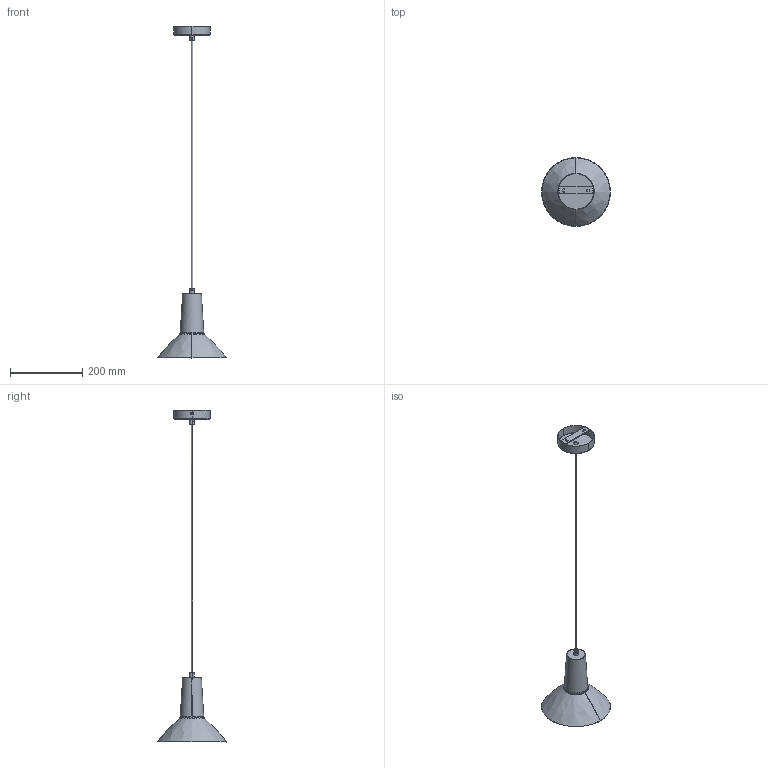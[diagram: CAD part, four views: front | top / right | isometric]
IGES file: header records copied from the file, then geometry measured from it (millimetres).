
Start section: SolidWorks IGES file using analytic representation for surfaces
Global section: file name: C:\Users\adrian\Desktop\Nueva Coleccion Septiembre 2026\HUDO\HUDO_C1366-1\HUDO_C1366_1.IGS; native system: SolidWorks 2023; preprocessor: SolidWorks 2023; author: adrian; date: 260616.170420; units: millimetre
Bounding box: 190.01 x 190.01 x 916.48 mm (x, y, z)
Surface area: 189761 mm2 (no closed solid volume)
Topology: 0 solids, 0 shells, 417 faces, 3760 edges, 3753 vertices
Faces by surface type: bspline 417
